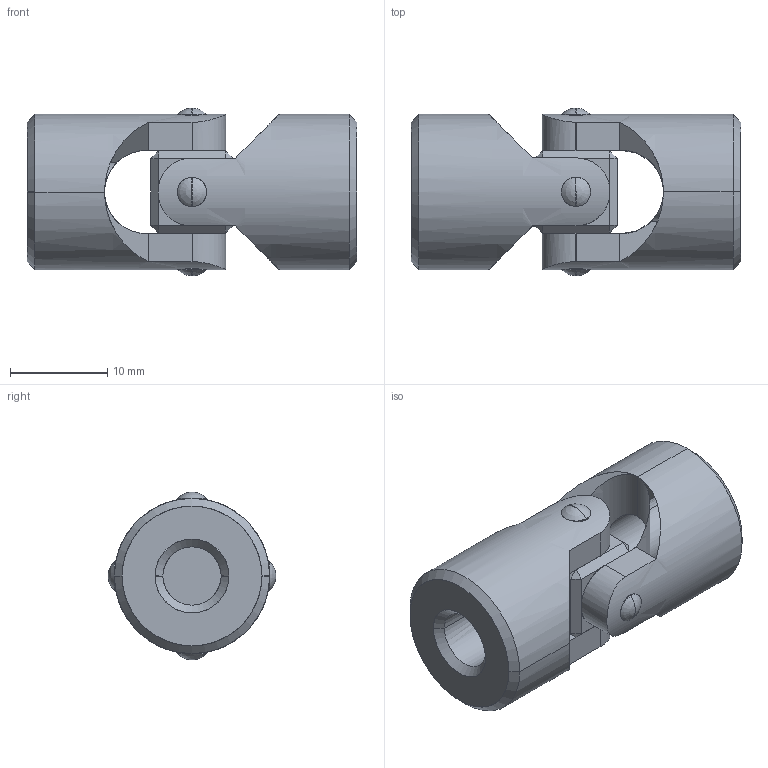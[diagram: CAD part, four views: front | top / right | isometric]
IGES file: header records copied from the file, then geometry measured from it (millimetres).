
Start section: SolidWorks IGES file using analytic representation for surfaces
Global section: file name: E:\WIXROYD\65186_v2\65186_v2_20180418_IGES\65186.W0006.igs; native system: SolidWorks 2017; preprocessor: SolidWorks 2017; author: liam_; date: 180618.201704; units: millimetre
Bounding box: 34 x 17.28 x 17.28 mm (x, y, z)
Surface area: 3594.7 mm2 (no closed solid volume)
Topology: 0 solids, 0 shells, 100 faces, 1652 edges, 1648 vertices
Faces by surface type: revolution 52, bspline 48
